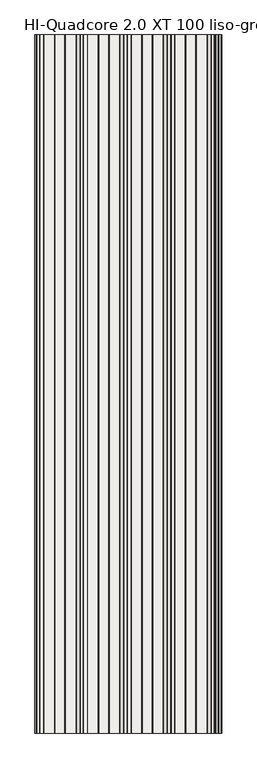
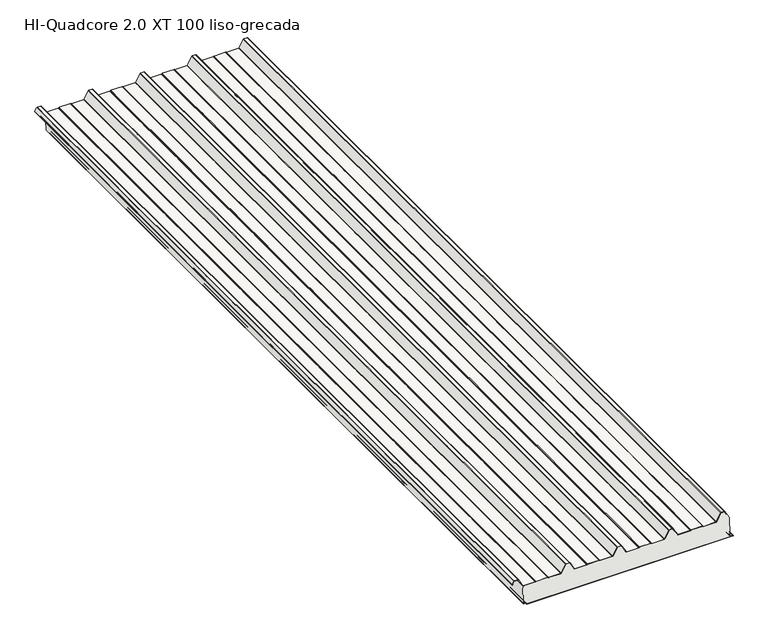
"""IFC4 building model written with IfcOpenShell, lengths in millimetres: slab geometry, Panel_HI_QuadCore 2.0 XT-XT DUAL_liso-grecada : HI-Quadcore 2.0 XT 100 liso-grecada."""

from ifc_helpers import new_model, si_unit, point, frame, frame_2d, origin, place, context, project, spatial, polyline, circle_curve, trimmed, segment, composite_curve, outline, extrude, source, transform, mapped, element, save
from ifc_brep_helpers import plane_surface, cylinder_surface, revolved_surface, advanced_brep


def hi_quadcore_2_0_xt_100_liso_grecada_4c52eda6(model_context):
    return source(origin(), model_context, "Body", "SolidModel", [
        advanced_brep(
        [(-463.5686109, 0.0, 13.3795578), (-464.1543582, 0.0, 11.9654043), (-464.1543963, 0.0, 8.2995811), (-462.3003213, 0.0, 6.328543), (-451.8922768, 0.0, 5.5663871), (-450.0967368, 0.0, 3.5769209), (-450.0966924, 0.0, 1.9756011), (-448.096637, 0.0, -0.0243435), (547.9162803, 0.0, 0.003269), (549.9046779, 0.0, 2.0032908), (549.904653, 0.0, 2.9012893), (548.0077486, 0.0, 4.8985749), (536.1928118, 0.0, 5.7933732), (534.3438482, 0.0, 7.7876066), (534.3437386, 0.0, 11.7402379), (533.757913, 0.0, 13.1544352), (532.3436602, 0.0, 14.5686095), (531.7779748, 0.0, 14.0029241), (533.1922433, 0.0, 12.5887341), (533.5437386, 0.0, 11.7402157), (533.5438482, 0.0, 7.7875844), (536.1323972, 0.0, 4.9956577), (547.958132, 0.0, 4.1000416), (549.104653, 0.0, 2.9012672), (549.1046779, 0.0, 2.0032686), (547.9136554, 0.0, 0.8032689), (-448.0966592, 0.0, 0.7756565), (-449.2966924, 0.0, 1.9756233), (-449.2967368, 0.0, 3.5769431), (-451.8231384, 0.0, 6.3634663), (-462.2418956, 0.0, 7.1264067), (-463.3542572, 0.0, 8.3231689), (-463.3543582, 0.0, 11.965396), (-463.0029098, 0.0, 12.8138881), (-460.8967817, 0.0, 14.920133), (-461.4624671, 0.0, 15.4858184), (-463.5686109, 4000.0, 13.3795578), (-461.4624671, 4000.0, 15.4858184), (-460.8967817, 4000.0, 14.920133), (-463.0029098, 4000.0, 12.8138881), (-463.3543582, 4000.0, 11.965396), (-463.3543963, 4000.0, 8.2995728), (-462.2418956, 4000.0, 7.1264067), (-451.8231384, 4000.0, 6.3634663), (-449.2967368, 4000.0, 3.5769431), (-449.2966924, 4000.0, 1.9756233), (-448.0966592, 4000.0, 0.7756565), (547.9136554, 4000.0, 0.8032689), (549.1046779, 4000.0, 2.0032686), (549.104653, 4000.0, 2.9012672), (547.958132, 4000.0, 4.1000416), (536.1323972, 4000.0, 4.9956577), (533.5438482, 4000.0, 7.7875844), (533.5437386, 4000.0, 11.7402157), (533.1922433, 4000.0, 12.5887341), (531.7779748, 4000.0, 14.0029241), (532.3436602, 4000.0, 14.5686095), (533.757913, 4000.0, 13.1544352), (534.3437386, 4000.0, 11.7402379), (534.3438482, 4000.0, 7.7876066), (536.1928118, 4000.0, 5.7933732), (548.0077486, 4000.0, 4.8985749), (549.904653, 4000.0, 2.9012893), (549.9046779, 4000.0, 2.0032908), (547.9162803, 4000.0, 0.003269), (-448.096637, 4000.0, -0.0243435), (-450.0966924, 4000.0, 1.9756011), (-450.0967368, 4000.0, 3.5769209), (-451.8922768, 4000.0, 5.5663871), (-462.3003213, 4000.0, 6.328543), (-464.1542572, 4000.0, 8.3231467), (-464.1543582, 4000.0, 11.9654043)],
        [
            (0, 1, circle_curve(frame((-462.1543582, 0.0, 11.9653834), z_axis=(0.0, -1.0, 0.0), x_axis=(1.0, 0.0, 0.0)), 2.0)),
            (1, 2),
            (2, 3, circle_curve(frame((-462.1542572, 0.0, 8.3232022), z_axis=(0.0, -1.0, 0.0), x_axis=(1.0, 0.0, 0.0)), 2.0)),
            (3, 4),
            (4, 5, circle_curve(frame((-452.0967368, 0.0, 3.5768655), z_axis=(0.0, 1.0, 0.0), x_axis=(1.0, 0.0, 0.0)), 2.0)),
            (5, 6),
            (6, 7, circle_curve(frame((-448.0966924, 0.0, 1.9756565), z_axis=(0.0, -1.0, 0.0), x_axis=(1.0, 0.0, 0.0)), 2.0)),
            (7, 8),
            (8, 9, circle_curve(frame((547.9046779, 0.0, 2.0032353), z_axis=(0.0, -1.0, 0.0), x_axis=(1.0, 0.0, 0.0)), 2.0)),
            (9, 10),
            (10, 11, circle_curve(frame((547.904653, 0.0, 2.9012339), z_axis=(0.0, -1.0, 0.0), x_axis=(1.0, 0.0, 0.0)), 2.0)),
            (11, 12),
            (12, 13, circle_curve(frame((536.3438482, 0.0, 7.7876621), z_axis=(0.0, 1.0, 0.0), x_axis=(1.0, 0.0, 0.0)), 2.0)),
            (13, 14),
            (14, 15, circle_curve(frame((532.3437386, 0.0, 11.7401824), z_axis=(0.0, -1.0, 0.0), x_axis=(1.0, 0.0, 0.0)), 2.0)),
            (15, 16),
            (16, 17),
            (17, 18),
            (18, 19, circle_curve(frame((532.3437386, 0.0, 11.7401824), z_axis=(0.0, 1.0, 0.0), x_axis=(1.0, 0.0, 0.0)), 1.2)),
            (19, 20),
            (20, 21, circle_curve(frame((536.3438482, 0.0, 7.7876621), z_axis=(0.0, -1.0, 0.0), x_axis=(1.0, 0.0, 0.0)), 2.8)),
            (21, 22),
            (22, 23, circle_curve(frame((547.904653, 0.0, 2.9012339), z_axis=(0.0, 1.0, 0.0), x_axis=(1.0, 0.0, 0.0)), 1.2)),
            (23, 24),
            (24, 25, circle_curve(frame((547.9046779, 0.0, 2.0032353), z_axis=(0.0, 1.0, 0.0), x_axis=(1.0, 0.0, 0.0)), 1.2)),
            (25, 26),
            (26, 27, circle_curve(frame((-448.0966924, 0.0, 1.9756565), z_axis=(0.0, 1.0, 0.0), x_axis=(1.0, 0.0, 0.0)), 1.2)),
            (27, 28),
            (28, 29, circle_curve(frame((-452.0967368, 0.0, 3.5768655), z_axis=(0.0, -1.0, 0.0), x_axis=(1.0, 0.0, 0.0)), 2.8)),
            (29, 30),
            (30, 31, circle_curve(frame((-462.1542572, 0.0, 8.3232022), z_axis=(0.0, 1.0, 0.0), x_axis=(1.0, 0.0, 0.0)), 1.2)),
            (31, 32),
            (32, 33, circle_curve(frame((-462.1543582, 0.0, 11.9653834), z_axis=(0.0, 1.0, 0.0), x_axis=(1.0, 0.0, 0.0)), 1.2)),
            (33, 34),
            (34, 35),
            (35, 0),
            (36, 37),
            (37, 38),
            (38, 39),
            (39, 40, circle_curve(frame((-462.1543582, 4000.0, 11.9653834), z_axis=(0.0, -1.0, 0.0), x_axis=(1.0, 0.0, 0.0)), 1.2)),
            (40, 41),
            (41, 42, circle_curve(frame((-462.1542572, 4000.0, 8.3232022), z_axis=(0.0, -1.0, 0.0), x_axis=(1.0, 0.0, 0.0)), 1.2)),
            (42, 43),
            (43, 44, circle_curve(frame((-452.0967368, 4000.0, 3.5768655), z_axis=(0.0, 1.0, 0.0), x_axis=(1.0, 0.0, 0.0)), 2.8)),
            (44, 45),
            (45, 46, circle_curve(frame((-448.0966924, 4000.0, 1.9756565), z_axis=(0.0, -1.0, 0.0), x_axis=(1.0, 0.0, 0.0)), 1.2)),
            (46, 47),
            (47, 48, circle_curve(frame((547.9046779, 4000.0, 2.0032353), z_axis=(0.0, -1.0, 0.0), x_axis=(1.0, 0.0, 0.0)), 1.2)),
            (48, 49),
            (49, 50, circle_curve(frame((547.904653, 4000.0, 2.9012339), z_axis=(0.0, -1.0, 0.0), x_axis=(1.0, 0.0, 0.0)), 1.2)),
            (50, 51),
            (51, 52, circle_curve(frame((536.3438482, 4000.0, 7.7876621), z_axis=(0.0, 1.0, 0.0), x_axis=(1.0, 0.0, 0.0)), 2.8)),
            (52, 53),
            (53, 54, circle_curve(frame((532.3437386, 4000.0, 11.7401824), z_axis=(0.0, -1.0, 0.0), x_axis=(1.0, 0.0, 0.0)), 1.2)),
            (54, 55),
            (55, 56),
            (56, 57),
            (57, 58, circle_curve(frame((532.3437386, 4000.0, 11.7401824), z_axis=(0.0, 1.0, 0.0), x_axis=(1.0, 0.0, 0.0)), 2.0)),
            (58, 59),
            (59, 60, circle_curve(frame((536.3438482, 4000.0, 7.7876621), z_axis=(0.0, -1.0, 0.0), x_axis=(1.0, 0.0, 0.0)), 2.0)),
            (60, 61),
            (61, 62, circle_curve(frame((547.904653, 4000.0, 2.9012339), z_axis=(0.0, 1.0, 0.0), x_axis=(1.0, 0.0, 0.0)), 2.0)),
            (62, 63),
            (63, 64, circle_curve(frame((547.9046779, 4000.0, 2.0032353), z_axis=(0.0, 1.0, 0.0), x_axis=(1.0, 0.0, 0.0)), 2.0)),
            (64, 65),
            (65, 66, circle_curve(frame((-448.0966924, 4000.0, 1.9756565), z_axis=(0.0, 1.0, 0.0), x_axis=(1.0, 0.0, 0.0)), 2.0)),
            (66, 67),
            (67, 68, circle_curve(frame((-452.0967368, 4000.0, 3.5768655), z_axis=(0.0, -1.0, 0.0), x_axis=(1.0, 0.0, 0.0)), 2.0)),
            (68, 69),
            (69, 70, circle_curve(frame((-462.1542572, 4000.0, 8.3232022), z_axis=(0.0, 1.0, 0.0), x_axis=(1.0, 0.0, 0.0)), 2.0)),
            (70, 71),
            (71, 36, circle_curve(frame((-462.1543582, 4000.0, 11.9653834), z_axis=(0.0, 1.0, 0.0), x_axis=(1.0, 0.0, 0.0)), 2.0)),
            (0, 36),
            (71, 1),
            (70, 2),
            (69, 3),
            (68, 4),
            (67, 5),
            (66, 6),
            (65, 7),
            (64, 8),
            (63, 9),
            (62, 10),
            (61, 11),
            (60, 12),
            (59, 13),
            (58, 14),
            (57, 15),
            (56, 16),
            (55, 17),
            (54, 18),
            (53, 19),
            (52, 20),
            (51, 21),
            (50, 22),
            (49, 23),
            (48, 24),
            (47, 25),
            (46, 26),
            (45, 27),
            (44, 28),
            (43, 29),
            (42, 30),
            (41, 31),
            (40, 32),
            (39, 33),
            (38, 34),
            (37, 35),
        ],
        [
            plane_surface(frame((-460.1543582, 0.0, 11.9653834), z_axis=(0.0, -1.0, 0.0), x_axis=(0.0, 0.0, 1.0))),
            plane_surface(frame((-460.1543582, 4000.0, 11.9653834), z_axis=(0.0, 1.0, 0.0), x_axis=(0.0, 0.0, -1.0))),
            cylinder_surface(frame((-462.1543582, 4000.0, 11.9653834), z_axis=(0.0, -1.0, 0.0), x_axis=(1.0, 0.0, 0.0)), 2.0),
            plane_surface(frame((-464.1543582, 0.0, 11.9654043), z_axis=(-0.9999999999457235, 0.0, 1.041887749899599e-05), x_axis=(0.0, 1.0, 0.0))),
            cylinder_surface(frame((-462.1542572, 4000.0, 8.3232022), z_axis=(0.0, -1.0, 0.0), x_axis=(1.0, 0.0, 0.0)), 2.0),
            plane_surface(frame((-462.3003213, 0.0, 6.328543), z_axis=(-0.07303203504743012, 0.0, -0.9973295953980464), x_axis=(0.0, 1.0, 0.0))),
            revolved_surface(polyline([(-450.0967368, 4000.0, 3.5768655), (-450.0967368, 0.0, 3.5768655)]), (-452.0967368, 4000.0, 3.5768655), (0.0, 1.0, 0.0)),
            plane_surface(frame((-450.0967368, 0.0, 3.5769209), z_axis=(-0.9999999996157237, 0.0, -2.7722781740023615e-05), x_axis=(0.0, 1.0, 0.0))),
            cylinder_surface(frame((-448.0966924, 4000.0, 1.9756565), z_axis=(0.0, -1.0, 0.0), x_axis=(1.0, 0.0, 0.0)), 2.0),
            plane_surface(frame((-448.096637, 0.0, -0.0243435), z_axis=(2.772298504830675e-05, 0.0, -0.9999999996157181), x_axis=(0.0, 1.0, 0.0))),
            cylinder_surface(frame((547.9046779, 4000.0, 2.0032353), z_axis=(0.0, -1.0, 0.0), x_axis=(1.0, 0.0, 0.0)), 2.0),
            plane_surface(frame((549.9046779, 0.0, 2.0032908), z_axis=(0.9999999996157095, 0.0, 2.7723295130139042e-05), x_axis=(0.0, 1.0, 0.0))),
            cylinder_surface(frame((547.904653, 4000.0, 2.9012339), z_axis=(0.0, -1.0, 0.0), x_axis=(1.0, 0.0, 0.0)), 2.0),
            plane_surface(frame((548.0077486, 0.0, 4.8985749), z_axis=(0.07551822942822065, 0.0, 0.9971444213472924), x_axis=(0.0, 1.0, 0.0))),
            revolved_surface(polyline([(538.3438482, 4000.0, 7.7876621), (538.3438482, 0.0, 7.7876621)]), (536.3438482, 4000.0, 7.7876621), (0.0, 1.0, 0.0)),
            plane_surface(frame((534.3438482, 0.0, 7.7876066), z_axis=(0.9999999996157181, 0.0, 2.7722984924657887e-05), x_axis=(0.0, 1.0, 0.0))),
            cylinder_surface(frame((532.3437386, 4000.0, 11.7401824), z_axis=(0.0, -1.0, 0.0), x_axis=(1.0, 0.0, 0.0)), 2.0),
            plane_surface(frame((533.757913, 0.0, 13.1544352), z_axis=(0.7070871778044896, 0.0, 0.7071263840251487), x_axis=(0.0, 1.0, 0.0))),
            plane_surface(frame((532.3436602, 0.0, 14.5686095), z_axis=(-0.7071067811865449, 0.0, 0.7071067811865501), x_axis=(0.0, 1.0, 0.0))),
            plane_surface(frame((531.7779748, 0.0, 14.0029241), z_axis=(-0.7070871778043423, 0.0, -0.707126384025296), x_axis=(0.0, 1.0, 0.0))),
            revolved_surface(polyline([(533.5437386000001, 4000.0, 11.7401824), (533.5437386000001, 0.0, 11.7401824)]), (532.3437386, 4000.0, 11.7401824), (0.0, 1.0, 0.0)),
            plane_surface(frame((533.5437386, 0.0, 11.7402157), z_axis=(-0.9999999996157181, 0.0, -2.7722985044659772e-05), x_axis=(0.0, 1.0, 0.0))),
            cylinder_surface(frame((536.3438482, 4000.0, 7.7876621), z_axis=(0.0, -1.0, 0.0), x_axis=(1.0, 0.0, 0.0)), 2.8),
            plane_surface(frame((536.1323972, 0.0, 4.9956577), z_axis=(-0.07551822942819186, 0.0, -0.9971444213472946), x_axis=(0.0, 1.0, 0.0))),
            revolved_surface(polyline([(549.1046530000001, 4000.0, 2.9012339), (549.1046530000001, 0.0, 2.9012339)]), (547.904653, 4000.0, 2.9012339), (0.0, 1.0, 0.0)),
            plane_surface(frame((549.104653, 0.0, 2.9012672), z_axis=(-0.9999999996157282, 0.0, -2.7722622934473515e-05), x_axis=(0.0, 1.0, 0.0))),
            revolved_surface(polyline([(549.1046779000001, 4000.0, 2.0032353), (549.1046779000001, 0.0, 2.0032353)]), (547.9046779, 4000.0, 2.0032353), (0.0, 1.0, 0.0)),
            plane_surface(frame((547.9136554, 0.0, 0.8032689), z_axis=(-2.7722985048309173e-05, 0.0, 0.9999999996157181), x_axis=(0.0, 1.0, 0.0))),
            revolved_surface(polyline([(-446.8966924, 4000.0, 1.9756565), (-446.8966924, 0.0, 1.9756565)]), (-448.0966924, 4000.0, 1.9756565), (0.0, 1.0, 0.0)),
            plane_surface(frame((-449.2966924, 0.0, 1.9756233), z_axis=(0.9999999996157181, 0.0, 2.7722983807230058e-05), x_axis=(0.0, 1.0, 0.0))),
            cylinder_surface(frame((-452.0967368, 4000.0, 3.5768655), z_axis=(0.0, -1.0, 0.0), x_axis=(1.0, 0.0, 0.0)), 2.8),
            plane_surface(frame((-451.8231384, 0.0, 6.3634663), z_axis=(0.0730320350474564, 0.0, 0.9973295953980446), x_axis=(0.0, 1.0, 0.0))),
            revolved_surface(polyline([(-460.95425720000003, 4000.0, 8.3232022), (-460.95425720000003, 0.0, 8.3232022)]), (-462.1542572, 4000.0, 8.3232022), (0.0, 1.0, 0.0)),
            plane_surface(frame((-463.3543963, 0.0, 8.2995728), z_axis=(0.9999999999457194, 0.0, -1.0419274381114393e-05), x_axis=(0.0, 1.0, 0.0))),
            revolved_surface(polyline([(-460.9543582, 4000.0, 11.9653834), (-460.9543582, 0.0, 11.9653834)]), (-462.1543582, 4000.0, 11.9653834), (0.0, 1.0, 0.0)),
            plane_surface(frame((-463.0029098, 0.0, 12.8138881), z_axis=(0.7071263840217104, 0.0, -0.7070871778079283), x_axis=(0.0, 1.0, 0.0))),
            plane_surface(frame((-460.8967817, 0.0, 14.920133), z_axis=(0.7071067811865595, 0.0, 0.7071067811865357), x_axis=(0.0, 1.0, 0.0))),
            plane_surface(frame((-461.4624671, 0.0, 15.4858184), z_axis=(-0.7071263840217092, 0.0, 0.7070871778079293), x_axis=(0.0, 1.0, 0.0))),
        ],
        [
            (0, [[1, 2, 3, 4, 5, 6, 7, 8, 9, 10, 11, 12, 13, 14, 15, 16, 17, 18, 19, 20, 21, 22, 23, 24, 25, 26, 27, 28, 29, 30, 31, 32, 33, 34, 35, 36]]),
            (1, [[37, 38, 39, 40, 41, 42, 43, 44, 45, 46, 47, 48, 49, 50, 51, 52, 53, 54, 55, 56, 57, 58, 59, 60, 61, 62, 63, 64, 65, 66, 67, 68, 69, 70, 71, 72]]),
            (2, [[-1, 73, -72, 74]]),
            (3, [[-2, -74, -71, 75]]),
            (4, [[-3, -75, -70, 76]]),
            (5, [[-4, -76, -69, 77]]),
            (6, [[-5, -77, -68, 78]]),
            (7, [[-6, -78, -67, 79]]),
            (8, [[-7, -79, -66, 80]]),
            (9, [[-8, -80, -65, 81]]),
            (10, [[-9, -81, -64, 82]]),
            (11, [[-10, -82, -63, 83]]),
            (12, [[-11, -83, -62, 84]]),
            (13, [[-12, -84, -61, 85]]),
            (14, [[-13, -85, -60, 86]]),
            (15, [[-14, -86, -59, 87]]),
            (16, [[-15, -87, -58, 88]]),
            (17, [[-16, -88, -57, 89]]),
            (18, [[-17, -89, -56, 90]]),
            (19, [[-18, -90, -55, 91]]),
            (20, [[-19, -91, -54, 92]]),
            (21, [[-20, -92, -53, 93]]),
            (22, [[-21, -93, -52, 94]]),
            (23, [[-22, -94, -51, 95]]),
            (24, [[-23, -95, -50, 96]]),
            (25, [[-24, -96, -49, 97]]),
            (26, [[-25, -97, -48, 98]]),
            (27, [[-26, -98, -47, 99]]),
            (28, [[-27, -99, -46, 100]]),
            (29, [[-28, -100, -45, 101]]),
            (30, [[-29, -101, -44, 102]]),
            (31, [[-30, -102, -43, 103]]),
            (32, [[-31, -103, -42, 104]]),
            (33, [[-32, -104, -41, 105]]),
            (34, [[-33, -105, -40, 106]]),
            (35, [[-34, -106, -39, 107]]),
            (36, [[-35, -107, -38, 108]]),
            (37, [[-36, -108, -37, -73]]),
        ],
    ),
        extrude(outline(composite_curve([segment(polyline([(138.1649405, -511.4858571), (123.6579587, -519.6460344)]), True, "CONTINUOUS"), segment(trimmed(circle_curve(frame_2d((123.0451321, -518.556565)), 1.25), [point((123.6579587, -519.6460344))], [point((122.689225, -517.3583037))], False, "CARTESIAN"), True, "CONTINUOUS"), segment(polyline([(122.689225, -517.3583037), (125.7359115, -516.562859), (125.9380053, -517.336912), (122.9074492, -518.1281453)]), True, "CONTINUOUS"), segment(trimmed(circle_curve(frame_2d((123.0451321, -518.556565)), 0.45), [point((122.9074492, -518.1281453))], [point((123.2657497, -518.948774))], True, "CARTESIAN"), True, "CONTINUOUS"), segment(polyline([(123.2657497, -518.948774), (137.7727315, -510.7885967)]), True, "CONTINUOUS"), segment(trimmed(circle_curve(frame_2d((136.4, -508.3481852)), 2.8), [point((137.7727315, -510.7885967))], [point((139.2, -508.3481852))], True, "CARTESIAN"), True, "CONTINUOUS"), segment(polyline([(139.2, -508.3481852), (139.2, -491.0688883)]), True, "CONTINUOUS"), segment(trimmed(circle_curve(frame_2d((136.4, -491.0688883)), 2.8), [point((139.2, -491.0688883))], [point((137.5457267, -488.5140281))], True, "CARTESIAN"), True, "CONTINUOUS"), segment(polyline([(137.5457267, -488.5140281), (101.2048889, -468.6947225)]), True, "CONTINUOUS"), segment(trimmed(circle_curve(frame_2d((103.0, -465.3454575)), 3.8), [point((101.2048889, -468.6947225))], [point((99.2, -465.3454575))], False, "CARTESIAN"), True, "CONTINUOUS"), segment(polyline([(99.2, -465.3454575), (99.2, -407.5510443)]), True, "CONTINUOUS"), segment(trimmed(circle_curve(frame_2d((103.0, -407.5510443)), 3.8), [point((99.2, -407.5510443))], [point((99.6973596, -405.671532))], False, "CARTESIAN"), True, "CONTINUOUS"), segment(polyline([(99.6973596, -405.671532), (100.912055, -403.5370944)]), True, "CONTINUOUS"), segment(trimmed(circle_curve(frame_2d((99.0, -402.4489557)), 2.2), [point((100.912055, -403.5370944))], [point((101.2, -402.4489557))], True, "CARTESIAN"), True, "CONTINUOUS"), segment(polyline([(101.2, -402.4489557), (101.2, -347.5510443)]), True, "CONTINUOUS"), segment(trimmed(circle_curve(frame_2d((99.0, -347.5510443)), 2.2), [point((101.2, -347.5510443))], [point((100.912055, -346.4629056))], True, "CARTESIAN"), True, "CONTINUOUS"), segment(polyline([(100.912055, -346.4629056), (99.6973596, -344.328468)]), True, "CONTINUOUS"), segment(trimmed(circle_curve(frame_2d((103.0, -342.4489557)), 3.8), [point((99.6973596, -344.328468))], [point((99.2, -342.4489557))], False, "CARTESIAN"), True, "CONTINUOUS"), segment(polyline([(99.2, -342.4489557), (99.2, -284.2545425)]), True, "CONTINUOUS"), segment(trimmed(circle_curve(frame_2d((103.0, -284.2545425)), 3.8), [point((99.2, -284.2545425))], [point((101.1370073, -280.9425554))], False, "CARTESIAN"), True, "CONTINUOUS"), segment(polyline([(101.1370073, -280.9425554), (138.0785747, -260.1629237)]), True, "CONTINUOUS"), segment(trimmed(circle_curve(frame_2d((137.0, -258.2454575)), 2.2), [point((138.0785747, -260.1629237))], [point((139.2, -258.2454575))], True, "CARTESIAN"), True, "CONTINUOUS"), segment(polyline([(139.2, -258.2454575), (139.2, -241.7545425)]), True, "CONTINUOUS"), segment(trimmed(circle_curve(frame_2d((137.0, -241.7545425)), 2.2), [point((139.2, -241.7545425))], [point((138.0785747, -239.8370763))], True, "CARTESIAN"), True, "CONTINUOUS"), segment(polyline([(138.0785747, -239.8370763), (101.1370073, -219.0574446)]), True, "CONTINUOUS"), segment(trimmed(circle_curve(frame_2d((103.0, -215.7454575)), 3.8), [point((101.1370073, -219.0574446))], [point((99.2, -215.7454575))], False, "CARTESIAN"), True, "CONTINUOUS"), segment(polyline([(99.2, -215.7454575), (99.2, -157.5510443)]), True, "CONTINUOUS"), segment(trimmed(circle_curve(frame_2d((103.0, -157.5510443)), 3.8), [point((99.2, -157.5510443))], [point((99.6973596, -155.671532))], False, "CARTESIAN"), True, "CONTINUOUS"), segment(polyline([(99.6973596, -155.671532), (100.912055, -153.5370944)]), True, "CONTINUOUS"), segment(trimmed(circle_curve(frame_2d((99.0, -152.4489557)), 2.2), [point((100.912055, -153.5370944))], [point((101.2, -152.4489557))], True, "CARTESIAN"), True, "CONTINUOUS"), segment(polyline([(101.2, -152.4489557), (101.2, -97.5510443)]), True, "CONTINUOUS"), segment(trimmed(circle_curve(frame_2d((99.0, -97.5510443)), 2.2), [point((101.2, -97.5510443))], [point((100.912055, -96.4629056))], True, "CARTESIAN"), True, "CONTINUOUS"), segment(polyline([(100.912055, -96.4629056), (99.6973596, -94.328468)]), True, "CONTINUOUS"), segment(trimmed(circle_curve(frame_2d((103.0, -92.4489557)), 3.8), [point((99.6973596, -94.328468))], [point((99.2, -92.4489557))], False, "CARTESIAN"), True, "CONTINUOUS"), segment(polyline([(99.2, -92.4489557), (99.2, -34.2545425)]), True, "CONTINUOUS"), segment(trimmed(circle_curve(frame_2d((103.0, -34.2545425)), 3.8), [point((99.2, -34.2545425))], [point((101.1370073, -30.9425554))], False, "CARTESIAN"), True, "CONTINUOUS"), segment(polyline([(101.1370073, -30.9425554), (138.0785747, -10.1629237)]), True, "CONTINUOUS"), segment(trimmed(circle_curve(frame_2d((137.0, -8.2454575)), 2.2), [point((138.0785747, -10.1629237))], [point((139.2, -8.2454575))], True, "CARTESIAN"), True, "CONTINUOUS"), segment(polyline([(139.2, -8.2454575), (139.2, 8.2454575)]), True, "CONTINUOUS"), segment(trimmed(circle_curve(frame_2d((137.0, 8.2454575)), 2.2), [point((139.2, 8.2454575))], [point((138.0785747, 10.1629237))], True, "CARTESIAN"), True, "CONTINUOUS"), segment(polyline([(138.0785747, 10.1629237), (101.1370073, 30.9425554)]), True, "CONTINUOUS"), segment(trimmed(circle_curve(frame_2d((103.0, 34.2545425)), 3.8), [point((101.1370073, 30.9425554))], [point((99.2, 34.2545425))], False, "CARTESIAN"), True, "CONTINUOUS"), segment(polyline([(99.2, 34.2545425), (99.2, 92.4489557)]), True, "CONTINUOUS"), segment(trimmed(circle_curve(frame_2d((103.0, 92.4489557)), 3.8), [point((99.2, 92.4489557))], [point((99.6973596, 94.328468))], False, "CARTESIAN"), True, "CONTINUOUS"), segment(polyline([(99.6973596, 94.328468), (100.912055, 96.4629056)]), True, "CONTINUOUS"), segment(trimmed(circle_curve(frame_2d((99.0, 97.5510443)), 2.2), [point((100.912055, 96.4629056))], [point((101.2, 97.5510443))], True, "CARTESIAN"), True, "CONTINUOUS"), segment(polyline([(101.2, 97.5510443), (101.2, 152.4489557)]), True, "CONTINUOUS"), segment(trimmed(circle_curve(frame_2d((99.0, 152.4489557)), 2.2), [point((101.2, 152.4489557))], [point((100.912055, 153.5370944))], True, "CARTESIAN"), True, "CONTINUOUS"), segment(polyline([(100.912055, 153.5370944), (99.6973596, 155.671532)]), True, "CONTINUOUS"), segment(trimmed(circle_curve(frame_2d((103.0, 157.5510443)), 3.8), [point((99.6973596, 155.671532))], [point((99.2, 157.5510443))], False, "CARTESIAN"), True, "CONTINUOUS"), segment(polyline([(99.2, 157.5510443), (99.2, 215.7454575)]), True, "CONTINUOUS"), segment(trimmed(circle_curve(frame_2d((103.0, 215.7454575)), 3.8), [point((99.2, 215.7454575))], [point((101.1370073, 219.0574446))], False, "CARTESIAN"), True, "CONTINUOUS"), segment(polyline([(101.1370073, 219.0574446), (138.0785747, 239.8370763)]), True, "CONTINUOUS"), segment(trimmed(circle_curve(frame_2d((137.0, 241.7545425)), 2.2), [point((138.0785747, 239.8370763))], [point((139.2, 241.7545425))], True, "CARTESIAN"), True, "CONTINUOUS"), segment(polyline([(139.2, 241.7545425), (139.2, 258.2454575)]), True, "CONTINUOUS"), segment(trimmed(circle_curve(frame_2d((137.0, 258.2454575)), 2.2), [point((139.2, 258.2454575))], [point((138.0785747, 260.1629237))], True, "CARTESIAN"), True, "CONTINUOUS"), segment(polyline([(138.0785747, 260.1629237), (101.1370073, 280.9425554)]), True, "CONTINUOUS"), segment(trimmed(circle_curve(frame_2d((103.0, 284.2545425)), 3.8), [point((101.1370073, 280.9425554))], [point((99.2, 284.2545425))], False, "CARTESIAN"), True, "CONTINUOUS"), segment(polyline([(99.2, 284.2545425), (99.2, 342.4489557)]), True, "CONTINUOUS"), segment(trimmed(circle_curve(frame_2d((103.0, 342.4489557)), 3.8), [point((99.2, 342.4489557))], [point((99.6973596, 344.328468))], False, "CARTESIAN"), True, "CONTINUOUS"), segment(polyline([(99.6973596, 344.328468), (100.912055, 346.4629056)]), True, "CONTINUOUS"), segment(trimmed(circle_curve(frame_2d((99.0, 347.5510443)), 2.2), [point((100.912055, 346.4629056))], [point((101.2, 347.5510443))], True, "CARTESIAN"), True, "CONTINUOUS"), segment(polyline([(101.2, 347.5510443), (101.2, 402.4489557)]), True, "CONTINUOUS"), segment(trimmed(circle_curve(frame_2d((99.0, 402.4489557)), 2.2), [point((101.2, 402.4489557))], [point((100.912055, 403.5370944))], True, "CARTESIAN"), True, "CONTINUOUS"), segment(polyline([(100.912055, 403.5370944), (99.6973596, 405.671532)]), True, "CONTINUOUS"), segment(trimmed(circle_curve(frame_2d((103.0, 407.5510443)), 3.8), [point((99.6973596, 405.671532))], [point((99.2, 407.5510443))], False, "CARTESIAN"), True, "CONTINUOUS"), segment(polyline([(99.2, 407.5510443), (99.2, 466.4208923)]), True, "CONTINUOUS"), segment(trimmed(circle_curve(frame_2d((103.0, 466.4208923)), 3.8), [point((99.2, 466.4208923))], [point((101.1583504, 469.7447946))], False, "CARTESIAN"), True, "CONTINUOUS"), segment(polyline([(101.1583504, 469.7447946), (138.0662182, 490.1940602)]), True, "CONTINUOUS"), segment(trimmed(circle_curve(frame_2d((137.0, 492.1184247)), 2.2), [point((138.0662182, 490.1940602))], [point((139.2, 492.1184247))], True, "CARTESIAN"), True, "CONTINUOUS"), segment(polyline([(139.2, 492.1184247), (139.2, 507.4945491)]), True, "CONTINUOUS"), segment(trimmed(circle_curve(frame_2d((137.0, 507.4945491)), 2.2), [point((139.2, 507.4945491))], [point((138.0785747, 509.4120152))], True, "CARTESIAN"), True, "CONTINUOUS"), segment(polyline([(138.0785747, 509.4120152), (127.5275176, 515.3469849)]), True, "CONTINUOUS"), segment(trimmed(circle_curve(frame_2d((126.9392041, 514.3010942)), 1.2), [point((127.5275176, 515.3469849))], [point((126.3392623, 515.3403583))], True, "CARTESIAN"), True, "CONTINUOUS"), segment(polyline([(126.3392623, 515.3403583), (124.7281681, 514.4103128), (124.3282068, 515.1031555), (125.939301, 516.033201)]), True, "CONTINUOUS"), segment(trimmed(circle_curve(frame_2d((126.9392041, 514.3010942)), 2.0), [point((125.939301, 516.033201))], [point((127.9197266, 516.0442453))], False, "CARTESIAN"), True, "CONTINUOUS"), segment(polyline([(127.9197266, 516.0442453), (138.4707837, 510.1092757)]), True, "CONTINUOUS"), segment(trimmed(circle_curve(frame_2d((137.0, 507.4945491)), 3.0), [point((138.4707837, 510.1092757))], [point((140.0, 507.4945491))], False, "CARTESIAN"), True, "CONTINUOUS"), segment(polyline([(140.0, 507.4945491), (140.0, 492.1184247)]), True, "CONTINUOUS"), segment(trimmed(circle_curve(frame_2d((137.0, 492.1184247)), 3.0), [point((140.0, 492.1184247))], [point((138.4539339, 489.4942913))], False, "CARTESIAN"), True, "CONTINUOUS"), segment(polyline([(138.4539339, 489.4942913), (101.5460661, 469.0450257)]), True, "CONTINUOUS"), segment(trimmed(circle_curve(frame_2d((103.0, 466.4208923)), 3.0), [point((101.5460661, 469.0450257))], [point((100.0, 466.4208923))], True, "CARTESIAN"), True, "CONTINUOUS"), segment(polyline([(100.0, 466.4208923), (100.0, 407.5510443)]), True, "CONTINUOUS"), segment(trimmed(circle_curve(frame_2d((103.0, 407.5510443)), 3.0), [point((100.0, 407.5510443))], [point((100.3926523, 406.0672188))], True, "CARTESIAN"), True, "CONTINUOUS"), segment(polyline([(100.3926523, 406.0672188), (101.6073477, 403.9327812)]), True, "CONTINUOUS"), segment(trimmed(circle_curve(frame_2d((99.0, 402.4489557)), 3.0), [point((101.6073477, 403.9327812))], [point((102.0, 402.4489557))], False, "CARTESIAN"), True, "CONTINUOUS"), segment(polyline([(102.0, 402.4489557), (102.0, 347.5510443)]), True, "CONTINUOUS"), segment(trimmed(circle_curve(frame_2d((99.0, 347.5510443)), 3.0), [point((102.0, 347.5510443))], [point((101.6073477, 346.0672188))], False, "CARTESIAN"), True, "CONTINUOUS"), segment(polyline([(101.6073477, 346.0672188), (100.3926523, 343.9327812)]), True, "CONTINUOUS"), segment(trimmed(circle_curve(frame_2d((103.0, 342.4489557)), 3.0), [point((100.3926523, 343.9327812))], [point((100.0, 342.4489557))], True, "CARTESIAN"), True, "CONTINUOUS"), segment(polyline([(100.0, 342.4489557), (100.0, 284.2545425)]), True, "CONTINUOUS"), segment(trimmed(circle_curve(frame_2d((103.0, 284.2545425)), 3.0), [point((100.0, 284.2545425))], [point((101.5292163, 281.6398158))], True, "CARTESIAN"), True, "CONTINUOUS"), segment(polyline([(101.5292163, 281.6398158), (138.4707837, 260.8601842)]), True, "CONTINUOUS"), segment(trimmed(circle_curve(frame_2d((137.0, 258.2454575)), 3.0), [point((138.4707837, 260.8601842))], [point((140.0, 258.2454575))], False, "CARTESIAN"), True, "CONTINUOUS"), segment(polyline([(140.0, 258.2454575), (140.0, 241.7545425)]), True, "CONTINUOUS"), segment(trimmed(circle_curve(frame_2d((137.0, 241.7545425)), 3.0), [point((140.0, 241.7545425))], [point((138.4707837, 239.1398158))], False, "CARTESIAN"), True, "CONTINUOUS"), segment(polyline([(138.4707837, 239.1398158), (101.5292163, 218.3601842)]), True, "CONTINUOUS"), segment(trimmed(circle_curve(frame_2d((103.0, 215.7454575)), 3.0), [point((101.5292163, 218.3601842))], [point((100.0, 215.7454575))], True, "CARTESIAN"), True, "CONTINUOUS"), segment(polyline([(100.0, 215.7454575), (100.0, 157.5510443)]), True, "CONTINUOUS"), segment(trimmed(circle_curve(frame_2d((103.0, 157.5510443)), 3.0), [point((100.0, 157.5510443))], [point((100.3926523, 156.0672188))], True, "CARTESIAN"), True, "CONTINUOUS"), segment(polyline([(100.3926523, 156.0672188), (101.6073477, 153.9327812)]), True, "CONTINUOUS"), segment(trimmed(circle_curve(frame_2d((99.0, 152.4489557)), 3.0), [point((101.6073477, 153.9327812))], [point((102.0, 152.4489557))], False, "CARTESIAN"), True, "CONTINUOUS"), segment(polyline([(102.0, 152.4489557), (102.0, 97.5510443)]), True, "CONTINUOUS"), segment(trimmed(circle_curve(frame_2d((99.0, 97.5510443)), 3.0), [point((102.0, 97.5510443))], [point((101.6073477, 96.0672188))], False, "CARTESIAN"), True, "CONTINUOUS"), segment(polyline([(101.6073477, 96.0672188), (100.3926523, 93.9327812)]), True, "CONTINUOUS"), segment(trimmed(circle_curve(frame_2d((103.0, 92.4489557)), 3.0), [point((100.3926523, 93.9327812))], [point((100.0, 92.4489557))], True, "CARTESIAN"), True, "CONTINUOUS"), segment(polyline([(100.0, 92.4489557), (100.0, 34.2545425)]), True, "CONTINUOUS"), segment(trimmed(circle_curve(frame_2d((103.0, 34.2545425)), 3.0), [point((100.0, 34.2545425))], [point((101.5292163, 31.6398158))], True, "CARTESIAN"), True, "CONTINUOUS"), segment(polyline([(101.5292163, 31.6398158), (138.4707837, 10.8601842)]), True, "CONTINUOUS"), segment(trimmed(circle_curve(frame_2d((137.0, 8.2454575)), 3.0), [point((138.4707837, 10.8601842))], [point((140.0, 8.2454575))], False, "CARTESIAN"), True, "CONTINUOUS"), segment(polyline([(140.0, 8.2454575), (140.0, -8.2454575)]), True, "CONTINUOUS"), segment(trimmed(circle_curve(frame_2d((137.0, -8.2454575)), 3.0), [point((140.0, -8.2454575))], [point((138.4707837, -10.8601842))], False, "CARTESIAN"), True, "CONTINUOUS"), segment(polyline([(138.4707837, -10.8601842), (101.5292163, -31.6398158)]), True, "CONTINUOUS"), segment(trimmed(circle_curve(frame_2d((103.0, -34.2545425)), 3.0), [point((101.5292163, -31.6398158))], [point((100.0, -34.2545425))], True, "CARTESIAN"), True, "CONTINUOUS"), segment(polyline([(100.0, -34.2545425), (100.0, -92.4489557)]), True, "CONTINUOUS"), segment(trimmed(circle_curve(frame_2d((103.0, -92.4489557)), 3.0), [point((100.0, -92.4489557))], [point((100.3926523, -93.9327812))], True, "CARTESIAN"), True, "CONTINUOUS"), segment(polyline([(100.3926523, -93.9327812), (101.6073477, -96.0672188)]), True, "CONTINUOUS"), segment(trimmed(circle_curve(frame_2d((99.0, -97.5510443)), 3.0), [point((101.6073477, -96.0672188))], [point((102.0, -97.5510443))], False, "CARTESIAN"), True, "CONTINUOUS"), segment(polyline([(102.0, -97.5510443), (102.0, -152.4489557)]), True, "CONTINUOUS"), segment(trimmed(circle_curve(frame_2d((99.0, -152.4489557)), 3.0), [point((102.0, -152.4489557))], [point((101.6073477, -153.9327812))], False, "CARTESIAN"), True, "CONTINUOUS"), segment(polyline([(101.6073477, -153.9327812), (100.3926523, -156.0672188)]), True, "CONTINUOUS"), segment(trimmed(circle_curve(frame_2d((103.0, -157.5510443)), 3.0), [point((100.3926523, -156.0672188))], [point((100.0, -157.5510443))], True, "CARTESIAN"), True, "CONTINUOUS"), segment(polyline([(100.0, -157.5510443), (100.0, -215.7454575)]), True, "CONTINUOUS"), segment(trimmed(circle_curve(frame_2d((103.0, -215.7454575)), 3.0), [point((100.0, -215.7454575))], [point((101.5292163, -218.3601842))], True, "CARTESIAN"), True, "CONTINUOUS"), segment(polyline([(101.5292163, -218.3601842), (138.4707837, -239.1398158)]), True, "CONTINUOUS"), segment(trimmed(circle_curve(frame_2d((137.0, -241.7545425)), 3.0), [point((138.4707837, -239.1398158))], [point((140.0, -241.7545425))], False, "CARTESIAN"), True, "CONTINUOUS"), segment(polyline([(140.0, -241.7545425), (140.0, -258.2454575)]), True, "CONTINUOUS"), segment(trimmed(circle_curve(frame_2d((137.0, -258.2454575)), 3.0), [point((140.0, -258.2454575))], [point((138.4707837, -260.8601842))], False, "CARTESIAN"), True, "CONTINUOUS"), segment(polyline([(138.4707837, -260.8601842), (101.5292163, -281.6398158)]), True, "CONTINUOUS"), segment(trimmed(circle_curve(frame_2d((103.0, -284.2545425)), 3.0), [point((101.5292163, -281.6398158))], [point((100.0, -284.2545425))], True, "CARTESIAN"), True, "CONTINUOUS"), segment(polyline([(100.0, -284.2545425), (100.0, -342.4489557)]), True, "CONTINUOUS"), segment(trimmed(circle_curve(frame_2d((103.0, -342.4489557)), 3.0), [point((100.0, -342.4489557))], [point((100.3926523, -343.9327812))], True, "CARTESIAN"), True, "CONTINUOUS"), segment(polyline([(100.3926523, -343.9327812), (101.6073477, -346.0672188)]), True, "CONTINUOUS"), segment(trimmed(circle_curve(frame_2d((99.0, -347.5510443)), 3.0), [point((101.6073477, -346.0672188))], [point((102.0, -347.5510443))], False, "CARTESIAN"), True, "CONTINUOUS"), segment(polyline([(102.0, -347.5510443), (102.0, -402.4489557)]), True, "CONTINUOUS"), segment(trimmed(circle_curve(frame_2d((99.0, -402.4489557)), 3.0), [point((102.0, -402.4489557))], [point((101.6073477, -403.9327812))], False, "CARTESIAN"), True, "CONTINUOUS"), segment(polyline([(101.6073477, -403.9327812), (100.3926523, -406.0672188)]), True, "CONTINUOUS"), segment(trimmed(circle_curve(frame_2d((103.0, -407.5510443)), 3.0), [point((100.3926523, -406.0672188))], [point((100.0, -407.5510443))], True, "CARTESIAN"), True, "CONTINUOUS"), segment(polyline([(100.0, -407.5510443), (100.0, -465.3454575)]), True, "CONTINUOUS"), segment(trimmed(circle_curve(frame_2d((103.0, -465.3454575)), 3.0), [point((100.0, -465.3454575))], [point((101.5852209, -467.9909065))], True, "CARTESIAN"), True, "CONTINUOUS"), segment(polyline([(101.5852209, -467.9909065), (137.9031732, -487.7977309)]), True, "CONTINUOUS"), segment(trimmed(circle_curve(frame_2d((136.4, -491.0688883)), 3.6), [point((137.9031732, -487.7977309))], [point((140.0, -491.0688883))], False, "CARTESIAN"), True, "CONTINUOUS"), segment(polyline([(140.0, -491.0688883), (140.0, -508.3481852)]), True, "CONTINUOUS"), segment(trimmed(circle_curve(frame_2d((136.4, -508.3481852)), 3.6), [point((140.0, -508.3481852))], [point((138.1649405, -511.4858571))], False, "CARTESIAN"), True, "CONTINUOUS")], self_intersect=False)), frame((0.0, 0.0, 0.0), z_axis=(0.0, 1.0, 0.0), x_axis=(0.0, 0.0, 1.0)), (0.0, 0.0, 1.0), 4000.0),
        extrude(outline(composite_curve([segment(polyline([(101.2667387, 531.036551), (127.9197266, 516.0442453)]), True, "CONTINUOUS"), segment(trimmed(circle_curve(frame_2d((126.9392041, 514.3010942)), 2.0), [point((127.9197266, 516.0442453))], [point((125.939301, 516.033201))], True, "CARTESIAN"), True, "CONTINUOUS"), segment(polyline([(125.939301, 516.033201), (124.3282068, 515.1031555), (124.7281681, 514.4103128), (126.3392623, 515.3403583)]), True, "CONTINUOUS"), segment(trimmed(circle_curve(frame_2d((126.9392041, 514.3010942)), 1.2), [point((126.3392623, 515.3403583))], [point((127.5275176, 515.3469849))], False, "CARTESIAN"), True, "CONTINUOUS"), segment(polyline([(127.5275176, 515.3469849), (138.0785747, 509.4120152)]), True, "CONTINUOUS"), segment(trimmed(circle_curve(frame_2d((137.0, 507.4945491)), 2.2), [point((138.0785747, 509.4120152))], [point((139.2, 507.4945491))], False, "CARTESIAN"), True, "CONTINUOUS"), segment(polyline([(139.2, 507.4945491), (139.2, 492.1184247)]), True, "CONTINUOUS"), segment(trimmed(circle_curve(frame_2d((137.0, 492.1184247)), 2.2), [point((139.2, 492.1184247))], [point((138.0662182, 490.1940602))], False, "CARTESIAN"), True, "CONTINUOUS"), segment(polyline([(138.0662182, 490.1940602), (101.1583504, 469.7447946)]), True, "CONTINUOUS"), segment(trimmed(circle_curve(frame_2d((103.0, 466.4208923)), 3.8), [point((101.1583504, 469.7447946))], [point((99.2, 466.4208923))], True, "CARTESIAN"), True, "CONTINUOUS"), segment(polyline([(99.2, 466.4208923), (99.2, 407.5510443)]), True, "CONTINUOUS"), segment(trimmed(circle_curve(frame_2d((103.0, 407.5510443)), 3.8), [point((99.2, 407.5510443))], [point((99.6973596, 405.671532))], True, "CARTESIAN"), True, "CONTINUOUS"), segment(polyline([(99.6973596, 405.671532), (100.912055, 403.5370944)]), True, "CONTINUOUS"), segment(trimmed(circle_curve(frame_2d((99.0, 402.4489557)), 2.2), [point((100.912055, 403.5370944))], [point((101.2, 402.4489557))], False, "CARTESIAN"), True, "CONTINUOUS"), segment(polyline([(101.2, 402.4489557), (101.2, 347.5510443)]), True, "CONTINUOUS"), segment(trimmed(circle_curve(frame_2d((99.0, 347.5510443)), 2.2), [point((101.2, 347.5510443))], [point((100.912055, 346.4629056))], False, "CARTESIAN"), True, "CONTINUOUS"), segment(polyline([(100.912055, 346.4629056), (99.6973596, 344.328468)]), True, "CONTINUOUS"), segment(trimmed(circle_curve(frame_2d((103.0, 342.4489557)), 3.8), [point((99.6973596, 344.328468))], [point((99.2, 342.4489557))], True, "CARTESIAN"), True, "CONTINUOUS"), segment(polyline([(99.2, 342.4489557), (99.2, 284.2545425)]), True, "CONTINUOUS"), segment(trimmed(circle_curve(frame_2d((103.0, 284.2545425)), 3.8), [point((99.2, 284.2545425))], [point((101.1370073, 280.9425554))], True, "CARTESIAN"), True, "CONTINUOUS"), segment(polyline([(101.1370073, 280.9425554), (138.0785747, 260.1629237)]), True, "CONTINUOUS"), segment(trimmed(circle_curve(frame_2d((137.0, 258.2454575)), 2.2), [point((138.0785747, 260.1629237))], [point((139.2, 258.2454575))], False, "CARTESIAN"), True, "CONTINUOUS"), segment(polyline([(139.2, 258.2454575), (139.2, 241.7545425)]), True, "CONTINUOUS"), segment(trimmed(circle_curve(frame_2d((137.0, 241.7545425)), 2.2), [point((139.2, 241.7545425))], [point((138.0785747, 239.8370763))], False, "CARTESIAN"), True, "CONTINUOUS"), segment(polyline([(138.0785747, 239.8370763), (101.1370073, 219.0574446)]), True, "CONTINUOUS"), segment(trimmed(circle_curve(frame_2d((103.0, 215.7454575)), 3.8), [point((101.1370073, 219.0574446))], [point((99.2, 215.7454575))], True, "CARTESIAN"), True, "CONTINUOUS"), segment(polyline([(99.2, 215.7454575), (99.2, 157.5510443)]), True, "CONTINUOUS"), segment(trimmed(circle_curve(frame_2d((103.0, 157.5510443)), 3.8), [point((99.2, 157.5510443))], [point((99.6973596, 155.671532))], True, "CARTESIAN"), True, "CONTINUOUS"), segment(polyline([(99.6973596, 155.671532), (100.912055, 153.5370944)]), True, "CONTINUOUS"), segment(trimmed(circle_curve(frame_2d((99.0, 152.4489557)), 2.2), [point((100.912055, 153.5370944))], [point((101.2, 152.4489557))], False, "CARTESIAN"), True, "CONTINUOUS"), segment(polyline([(101.2, 152.4489557), (101.2, 97.5510443)]), True, "CONTINUOUS"), segment(trimmed(circle_curve(frame_2d((99.0, 97.5510443)), 2.2), [point((101.2, 97.5510443))], [point((100.912055, 96.4629056))], False, "CARTESIAN"), True, "CONTINUOUS"), segment(polyline([(100.912055, 96.4629056), (99.6973596, 94.328468)]), True, "CONTINUOUS"), segment(trimmed(circle_curve(frame_2d((103.0, 92.4489557)), 3.8), [point((99.6973596, 94.328468))], [point((99.2, 92.4489557))], True, "CARTESIAN"), True, "CONTINUOUS"), segment(polyline([(99.2, 92.4489557), (99.2, 34.2545425)]), True, "CONTINUOUS"), segment(trimmed(circle_curve(frame_2d((103.0, 34.2545425)), 3.8), [point((99.2, 34.2545425))], [point((101.1370073, 30.9425554))], True, "CARTESIAN"), True, "CONTINUOUS"), segment(polyline([(101.1370073, 30.9425554), (138.0785747, 10.1629237)]), True, "CONTINUOUS"), segment(trimmed(circle_curve(frame_2d((137.0, 8.2454575)), 2.2), [point((138.0785747, 10.1629237))], [point((139.2, 8.2454575))], False, "CARTESIAN"), True, "CONTINUOUS"), segment(polyline([(139.2, 8.2454575), (139.2, -8.2454575)]), True, "CONTINUOUS"), segment(trimmed(circle_curve(frame_2d((137.0, -8.2454575)), 2.2), [point((139.2, -8.2454575))], [point((138.0785747, -10.1629237))], False, "CARTESIAN"), True, "CONTINUOUS"), segment(polyline([(138.0785747, -10.1629237), (101.1370073, -30.9425554)]), True, "CONTINUOUS"), segment(trimmed(circle_curve(frame_2d((103.0, -34.2545425)), 3.8), [point((101.1370073, -30.9425554))], [point((99.2, -34.2545425))], True, "CARTESIAN"), True, "CONTINUOUS"), segment(polyline([(99.2, -34.2545425), (99.2, -92.4489557)]), True, "CONTINUOUS"), segment(trimmed(circle_curve(frame_2d((103.0, -92.4489557)), 3.8), [point((99.2, -92.4489557))], [point((99.6973596, -94.328468))], True, "CARTESIAN"), True, "CONTINUOUS"), segment(polyline([(99.6973596, -94.328468), (100.912055, -96.4629056)]), True, "CONTINUOUS"), segment(trimmed(circle_curve(frame_2d((99.0, -97.5510443)), 2.2), [point((100.912055, -96.4629056))], [point((101.2, -97.5510443))], False, "CARTESIAN"), True, "CONTINUOUS"), segment(polyline([(101.2, -97.5510443), (101.2, -152.4489557)]), True, "CONTINUOUS"), segment(trimmed(circle_curve(frame_2d((99.0, -152.4489557)), 2.2), [point((101.2, -152.4489557))], [point((100.912055, -153.5370944))], False, "CARTESIAN"), True, "CONTINUOUS"), segment(polyline([(100.912055, -153.5370944), (99.6973596, -155.671532)]), True, "CONTINUOUS"), segment(trimmed(circle_curve(frame_2d((103.0, -157.5510443)), 3.8), [point((99.6973596, -155.671532))], [point((99.2, -157.5510443))], True, "CARTESIAN"), True, "CONTINUOUS"), segment(polyline([(99.2, -157.5510443), (99.2, -215.7454575)]), True, "CONTINUOUS"), segment(trimmed(circle_curve(frame_2d((103.0, -215.7454575)), 3.8), [point((99.2, -215.7454575))], [point((101.1370073, -219.0574446))], True, "CARTESIAN"), True, "CONTINUOUS"), segment(polyline([(101.1370073, -219.0574446), (138.0785747, -239.8370763)]), True, "CONTINUOUS"), segment(trimmed(circle_curve(frame_2d((137.0, -241.7545425)), 2.2), [point((138.0785747, -239.8370763))], [point((139.2, -241.7545425))], False, "CARTESIAN"), True, "CONTINUOUS"), segment(polyline([(139.2, -241.7545425), (139.2, -258.2454575)]), True, "CONTINUOUS"), segment(trimmed(circle_curve(frame_2d((137.0, -258.2454575)), 2.2), [point((139.2, -258.2454575))], [point((138.0785747, -260.1629237))], False, "CARTESIAN"), True, "CONTINUOUS"), segment(polyline([(138.0785747, -260.1629237), (101.1370073, -280.9425554)]), True, "CONTINUOUS"), segment(trimmed(circle_curve(frame_2d((103.0, -284.2545425)), 3.8), [point((101.1370073, -280.9425554))], [point((99.2, -284.2545425))], True, "CARTESIAN"), True, "CONTINUOUS"), segment(polyline([(99.2, -284.2545425), (99.2, -342.4489557)]), True, "CONTINUOUS"), segment(trimmed(circle_curve(frame_2d((103.0, -342.4489557)), 3.8), [point((99.2, -342.4489557))], [point((99.6973596, -344.328468))], True, "CARTESIAN"), True, "CONTINUOUS"), segment(polyline([(99.6973596, -344.328468), (100.912055, -346.4629056)]), True, "CONTINUOUS"), segment(trimmed(circle_curve(frame_2d((99.0, -347.5510443)), 2.2), [point((100.912055, -346.4629056))], [point((101.2, -347.5510443))], False, "CARTESIAN"), True, "CONTINUOUS"), segment(polyline([(101.2, -347.5510443), (101.2, -402.4489557)]), True, "CONTINUOUS"), segment(trimmed(circle_curve(frame_2d((99.0, -402.4489557)), 2.2), [point((101.2, -402.4489557))], [point((100.912055, -403.5370944))], False, "CARTESIAN"), True, "CONTINUOUS"), segment(polyline([(100.912055, -403.5370944), (99.6973596, -405.671532)]), True, "CONTINUOUS"), segment(trimmed(circle_curve(frame_2d((103.0, -407.5510443)), 3.8), [point((99.6973596, -405.671532))], [point((99.2, -407.5510443))], True, "CARTESIAN"), True, "CONTINUOUS"), segment(polyline([(99.2, -407.5510443), (99.2, -465.3454575)]), True, "CONTINUOUS"), segment(trimmed(circle_curve(frame_2d((103.0, -465.3454575)), 3.8), [point((99.2, -465.3454575))], [point((101.2048889, -468.6947225))], True, "CARTESIAN"), True, "CONTINUOUS"), segment(polyline([(101.2048889, -468.6947225), (7.0308356, -465.5377778), (7.2414508, -464.1542269), (11.9758655, -464.1543583)]), True, "CONTINUOUS"), segment(trimmed(circle_curve(frame_2d((11.9759203, -462.1543584)), 1.9999999), [point((11.9758655, -464.1543583))], [point((13.3900948, -463.5686109))], True, "CARTESIAN"), True, "CONTINUOUS"), segment(polyline([(13.3900948, -463.5686109), (15.4963556, -461.4624671), (14.9306702, -460.8967817), (12.8244256, -463.0029101)]), True, "CONTINUOUS"), segment(trimmed(circle_curve(frame_2d((11.9759203, -462.1543584)), 1.2000005), [point((12.8244256, -463.0029101))], [point((11.9773876, -463.354358))], False, "CARTESIAN"), True, "CONTINUOUS"), segment(polyline([(11.9773876, -463.354358), (8.3337062, -463.3542572)]), True, "CONTINUOUS"), segment(trimmed(circle_curve(frame_2d((8.3337394, -462.1542572)), 1.2), [point((8.3337062, -463.3542572))], [point((7.1369439, -462.2418956))], False, "CARTESIAN"), True, "CONTINUOUS"), segment(polyline([(7.1369439, -462.2418956), (6.3740035, -451.8231384)]), True, "CONTINUOUS"), segment(trimmed(circle_curve(frame_2d((3.5874027, -452.0967368)), 2.8), [point((6.3740035, -451.8231384))], [point((3.5874804, -449.2967368))], True, "CARTESIAN"), True, "CONTINUOUS"), segment(polyline([(3.5874804, -449.2967368), (1.9756233, -449.2966921)]), True, "CONTINUOUS"), segment(trimmed(circle_curve(frame_2d((1.9756562, -448.0966924)), 1.1999997), [point((1.9756233, -449.2966921))], [point((0.7756565, -448.0966592))], False, "CARTESIAN"), True, "CONTINUOUS"), segment(polyline([(0.7756565, -448.0966592), (0.8032689, 547.9136557)]), True, "CONTINUOUS"), segment(trimmed(circle_curve(frame_2d((2.0032353, 547.9046782)), 1.2), [point((0.8032689, 547.9136557))], [point((2.0032686, 549.1046782))], False, "CARTESIAN"), True, "CONTINUOUS"), segment(polyline([(2.0032686, 549.1046782), (2.9118044, 549.104653)]), True, "CONTINUOUS"), segment(trimmed(circle_curve(frame_2d((2.9117711, 547.9046533)), 1.1999997), [point((2.9118044, 549.104653))], [point((4.1105786, 547.9581323))], False, "CARTESIAN"), True, "CONTINUOUS"), segment(polyline([(4.1105786, 547.9581323), (5.0061949, 536.1323972)]), True, "CONTINUOUS"), segment(trimmed(circle_curve(frame_2d((7.7981993, 536.3438482)), 2.8), [point((5.0061949, 536.1323972))], [point((7.7981217, 533.5438482))], True, "CARTESIAN"), True, "CONTINUOUS"), segment(polyline([(7.7981217, 533.5438482), (11.7460458, 533.5455151)]), True, "CONTINUOUS"), segment(trimmed(circle_curve(frame_2d((11.7411592, 532.3429645)), 1.2025605), [point((11.7460458, 533.5455151))], [point((12.5937174, 533.1910778))], False, "CARTESIAN"), True, "CONTINUOUS"), segment(polyline([(12.5937174, 533.1910778), (14.0134457, 531.7779905), (14.5791311, 532.3436759), (13.1649724, 533.757913), (101.2667387, 531.036551)]), True, "CONTINUOUS")], self_intersect=False)), frame((0.0, 0.0, 0.0), z_axis=(0.0, 1.0, 0.0), x_axis=(0.0, 0.0, 1.0)), (0.0, 0.0, 1.0), 4000.0),
    ])


if __name__ == "__main__":
    model = new_model("IFC4")
    model_context = context("Model", 3, world=origin())
    ifc_project = project(units=[si_unit("LENGTHUNIT", "METRE", prefix="MILLI")], contexts=[model_context])
    site = spatial("IfcSite", under=ifc_project)
    building = spatial("IfcBuilding", under=site)
    placement = place(None, origin())
    hi_quadcore_2_0_xt_100_liso_grecada_shape = hi_quadcore_2_0_xt_100_liso_grecada_4c52eda6(model_context)
    element("IfcSlab", 1, ObjectType="Panel_HI_QuadCore 2.0 XT-XT DUAL_liso-grecada : HI-Quadcore 2.0 XT 100 liso-grecada", at=placement, inside=building, context=model_context, shape_type="MappedRepresentation", body=[
        mapped(hi_quadcore_2_0_xt_100_liso_grecada_shape, transform((0.0, 0.0, 0.0), x_axis=(1.0, 0.0, 0.0), y_axis=(0.0, 1.0, 0.0), z_axis=(0.0, 0.0, 1.0))),
    ])
    save(model, "model.ifc")
